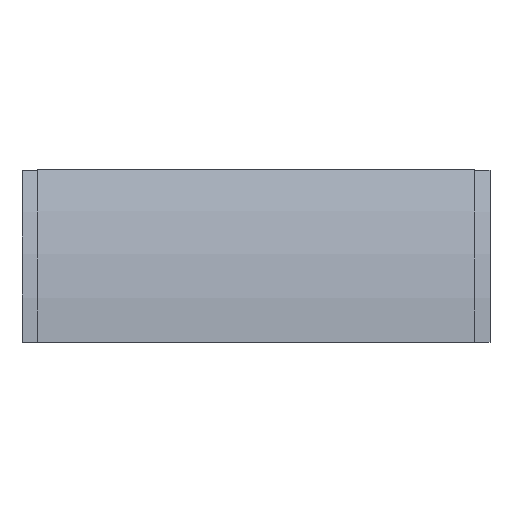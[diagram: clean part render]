
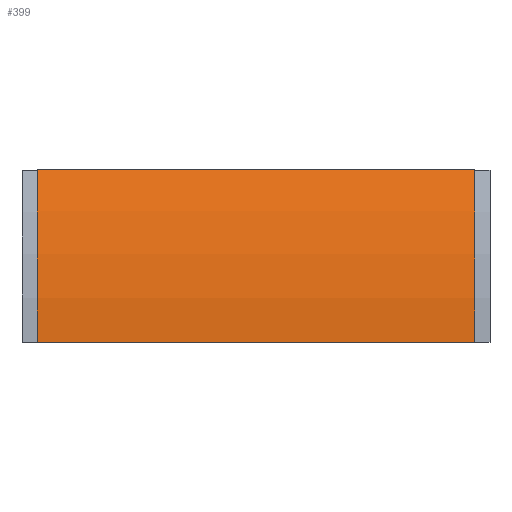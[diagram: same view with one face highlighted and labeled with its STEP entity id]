
A CAD part, front view. The second image highlights one B-rep face of the part: STEP entity #399.
In plain terms, the highlighted cylindrical face has radius 568 mm (diameter 1136 mm), a partial arc.
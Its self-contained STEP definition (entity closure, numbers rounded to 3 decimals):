
#68 = VERTEX_POINT ( 'NONE', #860 ) ;
#95 = EDGE_LOOP ( 'NONE', ( #540, #539, #538, #537 ) ) ;
#133 = FACE_OUTER_BOUND ( 'NONE', #95, .T. ) ;
#136 = CYLINDRICAL_SURFACE ( 'NONE', #605, 568. ) ;
#201 = CIRCLE ( 'NONE', #877, 568. ) ;
#203 = LINE ( 'NONE', #323, #210 ) ;
#206 = CIRCLE ( 'NONE', #871, 568. ) ;
#209 = LINE ( 'NONE', #329, #212 ) ;
#210 = VECTOR ( 'NONE', #328, 1000. ) ;
#212 = VECTOR ( 'NONE', #330, 1000. ) ;
#289 = VERTEX_POINT ( 'NONE', #740 ) ;
#317 = CARTESIAN_POINT ( 'NONE',  ( -304.25, 500., 0. ) ) ;
#318 = DIRECTION ( 'NONE',  ( 1., 0., 0. ) ) ;
#319 = DIRECTION ( 'NONE',  ( 0., 0., -1. ) ) ;
#323 = CARTESIAN_POINT ( 'NONE',  ( -304.25, -14.783, 240.047 ) ) ;
#325 = CARTESIAN_POINT ( 'NONE',  ( 304.25, 500., 0. ) ) ;
#326 = DIRECTION ( 'NONE',  ( 1., 0., 0. ) ) ;
#327 = DIRECTION ( 'NONE',  ( 0., 0., -1. ) ) ;
#328 = DIRECTION ( 'NONE',  ( 1., 0., 0. ) ) ;
#329 = CARTESIAN_POINT ( 'NONE',  ( -304.25, -68., 0. ) ) ;
#330 = DIRECTION ( 'NONE',  ( 1., 0., 0. ) ) ;
#399 = ADVANCED_FACE ( 'NONE', ( #133 ), #136, .T. ) ;
#435 = CARTESIAN_POINT ( 'NONE',  ( 304.25, -68., 0. ) ) ;
#537 = ORIENTED_EDGE ( 'NONE', *, *, #801, .T. ) ;
#538 = ORIENTED_EDGE ( 'NONE', *, *, #796, .T. ) ;
#539 = ORIENTED_EDGE ( 'NONE', *, *, #800, .F. ) ;
#540 = ORIENTED_EDGE ( 'NONE', *, *, #799, .F. ) ;
#558 = VERTEX_POINT ( 'NONE', #974 ) ;
#605 = AXIS2_PLACEMENT_3D ( 'NONE', #677, #672, #679 ) ;
#672 = DIRECTION ( 'NONE',  ( 1., 0., 0. ) ) ;
#677 = CARTESIAN_POINT ( 'NONE',  ( 0., 500., 0. ) ) ;
#679 = DIRECTION ( 'NONE',  ( 0., 0., -1. ) ) ;
#740 = CARTESIAN_POINT ( 'NONE',  ( -304.25, -14.783, 240.047 ) ) ;
#796 = EDGE_CURVE ( 'NONE', #289, #68, #201, .T. ) ;
#799 = EDGE_CURVE ( 'NONE', #558, #985, #206, .T. ) ;
#800 = EDGE_CURVE ( 'NONE', #289, #558, #203, .T. ) ;
#801 = EDGE_CURVE ( 'NONE', #68, #985, #209, .T. ) ;
#860 = CARTESIAN_POINT ( 'NONE',  ( -304.25, -68., 0. ) ) ;
#871 = AXIS2_PLACEMENT_3D ( 'NONE', #325, #326, #327 ) ;
#877 = AXIS2_PLACEMENT_3D ( 'NONE', #317, #318, #319 ) ;
#974 = CARTESIAN_POINT ( 'NONE',  ( 304.25, -14.783, 240.047 ) ) ;
#985 = VERTEX_POINT ( 'NONE', #435 ) ;
